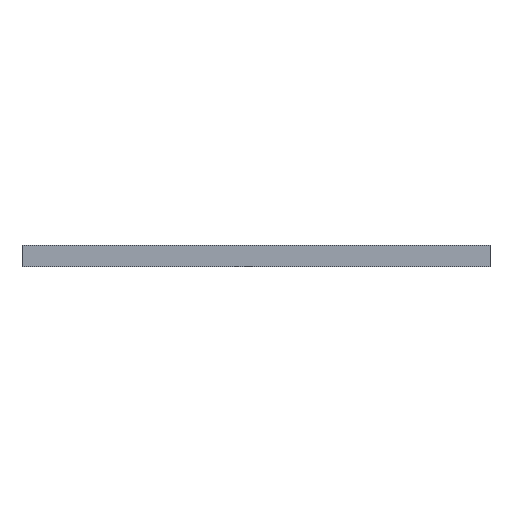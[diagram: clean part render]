
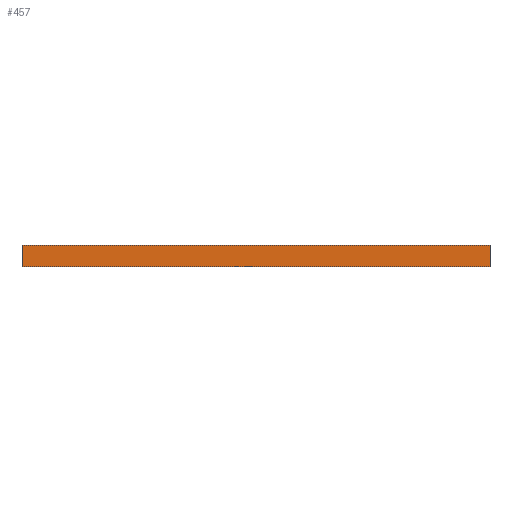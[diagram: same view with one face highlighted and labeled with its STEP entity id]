
A CAD part, front view. The second image highlights one B-rep face of the part: STEP entity #457.
In plain terms, the highlighted planar face has unit normal (0, -1, 0).
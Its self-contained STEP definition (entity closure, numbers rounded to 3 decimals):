
#32 = EDGE_LOOP ( 'NONE', ( #687, #720, #744, #785 ) ) ;
#170 = DIRECTION ( 'NONE',  ( 0., 0., 1. ) ) ;
#171 = DIRECTION ( 'NONE',  ( 0., 1., 0. ) ) ;
#172 = CARTESIAN_POINT ( 'NONE',  ( -64.5, -112.5, 5.875 ) ) ;
#173 = PLANE ( 'NONE',  #814 ) ;
#214 = CARTESIAN_POINT ( 'NONE',  ( -64.5, -112.5, 0. ) ) ;
#216 = CARTESIAN_POINT ( 'NONE',  ( 64.5, -112.5, 0. ) ) ;
#226 = CARTESIAN_POINT ( 'NONE',  ( -64.5, -112.5, 5.875 ) ) ;
#235 = CARTESIAN_POINT ( 'NONE',  ( 64.5, -112.5, 5.875 ) ) ;
#236 = VERTEX_POINT ( 'NONE', #235 ) ;
#254 = VERTEX_POINT ( 'NONE', #226 ) ;
#279 = VERTEX_POINT ( 'NONE', #216 ) ;
#287 = VERTEX_POINT ( 'NONE', #214 ) ;
#288 = DIRECTION ( 'NONE',  ( 0., 0., -1. ) ) ;
#289 = CARTESIAN_POINT ( 'NONE',  ( -64.5, -112.5, 5.875 ) ) ;
#294 = DIRECTION ( 'NONE',  ( 0., 0., -1. ) ) ;
#295 = CARTESIAN_POINT ( 'NONE',  ( 64.5, -112.5, 5.875 ) ) ;
#322 = DIRECTION ( 'NONE',  ( 1., 0., 0. ) ) ;
#324 = CARTESIAN_POINT ( 'NONE',  ( -64.5, -112.5, 0. ) ) ;
#347 = DIRECTION ( 'NONE',  ( 1., 0., 0. ) ) ;
#348 = CARTESIAN_POINT ( 'NONE',  ( -64.5, -112.5, 5.875 ) ) ;
#457 = ADVANCED_FACE ( 'NONE', ( #680 ), #173, .F. ) ;
#492 = VECTOR ( 'NONE', #288, 1000. ) ;
#493 = LINE ( 'NONE', #289, #492 ) ;
#496 = VECTOR ( 'NONE', #294, 1000. ) ;
#497 = LINE ( 'NONE', #295, #496 ) ;
#507 = VECTOR ( 'NONE', #322, 1000. ) ;
#508 = LINE ( 'NONE', #324, #507 ) ;
#515 = VECTOR ( 'NONE', #347, 1000. ) ;
#516 = LINE ( 'NONE', #348, #515 ) ;
#680 = FACE_OUTER_BOUND ( 'NONE', #32, .T. ) ;
#687 = ORIENTED_EDGE ( 'NONE', *, *, #881, .T. ) ;
#720 = ORIENTED_EDGE ( 'NONE', *, *, #888, .F. ) ;
#744 = ORIENTED_EDGE ( 'NONE', *, *, #875, .F. ) ;
#785 = ORIENTED_EDGE ( 'NONE', *, *, #890, .T. ) ;
#814 = AXIS2_PLACEMENT_3D ( 'NONE', #172, #171, #170 ) ;
#875 = EDGE_CURVE ( 'NONE', #254, #236, #516, .T. ) ;
#881 = EDGE_CURVE ( 'NONE', #287, #279, #508, .T. ) ;
#888 = EDGE_CURVE ( 'NONE', #236, #279, #497, .T. ) ;
#890 = EDGE_CURVE ( 'NONE', #254, #287, #493, .T. ) ;
